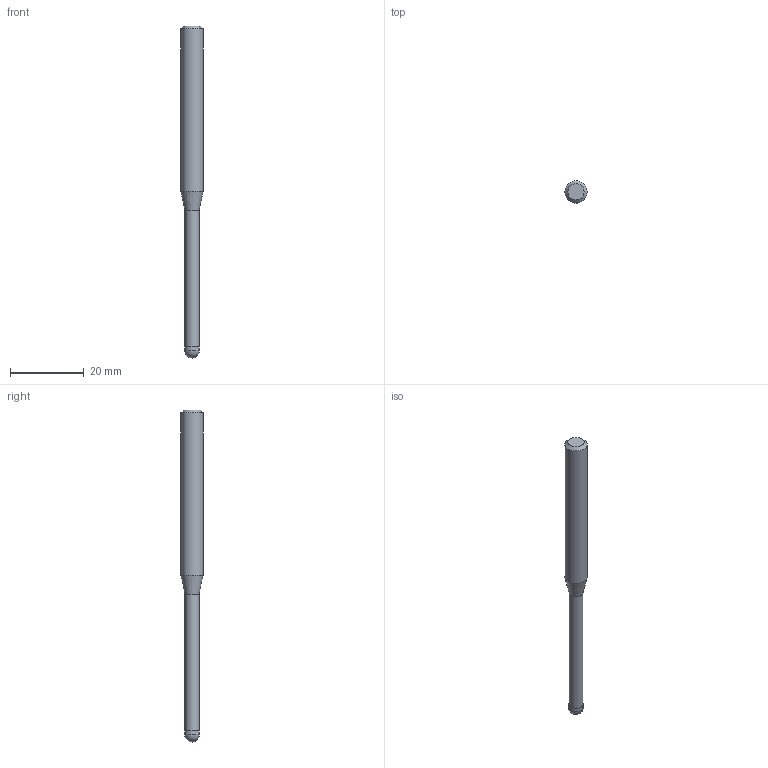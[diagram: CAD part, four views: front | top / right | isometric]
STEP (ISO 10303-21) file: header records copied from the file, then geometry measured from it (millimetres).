
FILE_DESCRIPTION((''),'2;1');
FILE_NAME('C:\Users\nsx150\AppData\Local\Temp\Mastercam 2021\EUJSUNXURU\TEMP.step','2021-04-22T10:26:34',(''),(''),'STEP Write','Mastercam 2021 ... CNC Software, Inc.','');
FILE_SCHEMA(('AUTOMOTIVE_DESIGN'));
Length unit declared in the file: millimetre
Products named in the file (1): None
Bounding box: 6 x 6 x 90 mm (x, y, z)
Volume: 1810.1 mm3; surface area: 1448.3 mm2
Topology: 2 solids, 2 shells, 9 faces, 14 edges, 8 vertices
Faces by surface type: plane 3, cylinder 3, cone 2, sphere 1
Full cylindrical faces by diameter (mm): 3.8 x1, 4 x1, 6 x1
Entity records: 211 total; most frequent: DIRECTION 36, CARTESIAN_POINT 25, AXIS2_PLACEMENT_3D 18, ORIENTED_EDGE 14, EDGE_LOOP 14, STYLED_ITEM 12, ADVANCED_FACE 9, FACE_BOUND 8
